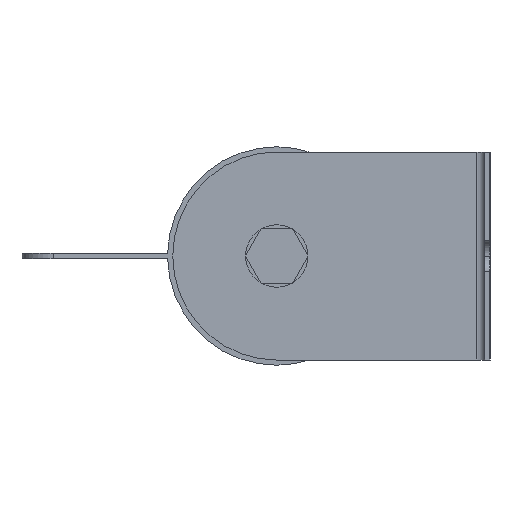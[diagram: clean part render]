
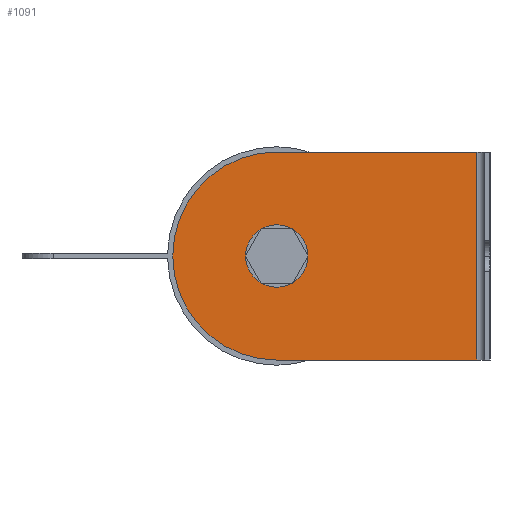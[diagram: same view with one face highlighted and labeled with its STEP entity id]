
A CAD part, left-side view. The second image highlights one B-rep face of the part: STEP entity #1091.
In plain terms, the highlighted planar face has unit normal (-1, 0, 0).
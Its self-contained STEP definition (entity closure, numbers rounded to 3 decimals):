
#161 = ORIENTED_EDGE ( 'NONE', *, *, #422, .F. ) ;
#252 = CARTESIAN_POINT ( 'NONE',  ( -193.5, 0., -20. ) ) ;
#255 = AXIS2_PLACEMENT_3D ( 'NONE', #1330, #1770, #2215 ) ;
#267 = DIRECTION ( 'NONE',  ( -1., 0., 0. ) ) ;
#279 = CARTESIAN_POINT ( 'NONE',  ( -193.5, -38.5, -20. ) ) ;
#308 = EDGE_CURVE ( 'NONE', #2081, #2088, #1448, .T. ) ;
#324 = LINE ( 'NONE', #2357, #2463 ) ;
#422 = EDGE_CURVE ( 'NONE', #1720, #2294, #1834, .T. ) ;
#478 = PLANE ( 'NONE',  #255 ) ;
#479 = CARTESIAN_POINT ( 'NONE',  ( -193.5, 0., 0. ) ) ;
#542 = DIRECTION ( 'NONE',  ( 0., 1., 0. ) ) ;
#549 = AXIS2_PLACEMENT_3D ( 'NONE', #880, #896, #1721 ) ;
#589 = FACE_OUTER_BOUND ( 'NONE', #1109, .T. ) ;
#637 = DIRECTION ( 'NONE',  ( -1., 0., 0. ) ) ;
#678 = CARTESIAN_POINT ( 'NONE',  ( -193.5, 0., 20. ) ) ;
#766 = ORIENTED_EDGE ( 'NONE', *, *, #1143, .T. ) ;
#880 = CARTESIAN_POINT ( 'NONE',  ( -193.5, 0., 0. ) ) ;
#896 = DIRECTION ( 'NONE',  ( -1., 0., 0. ) ) ;
#954 = CARTESIAN_POINT ( 'NONE',  ( -193.5, 0., -6. ) ) ;
#1018 = AXIS2_PLACEMENT_3D ( 'NONE', #1674, #637, #2554 ) ;
#1091 = ADVANCED_FACE ( 'NONE', ( #1731, #589 ), #478, .T. ) ;
#1109 = EDGE_LOOP ( 'NONE', ( #1467, #2233, #766, #1351 ) ) ;
#1127 = LINE ( 'NONE', #1341, #2579 ) ;
#1143 = EDGE_CURVE ( 'NONE', #1161, #2081, #1928, .T. ) ;
#1161 = VERTEX_POINT ( 'NONE', #1165 ) ;
#1165 = CARTESIAN_POINT ( 'NONE',  ( -193.5, -38.5, 20. ) ) ;
#1272 = CARTESIAN_POINT ( 'NONE',  ( -193.5, 0., 6. ) ) ;
#1305 = EDGE_LOOP ( 'NONE', ( #161, #1786 ) ) ;
#1330 = CARTESIAN_POINT ( 'NONE',  ( -193.5, 0., 0. ) ) ;
#1341 = CARTESIAN_POINT ( 'NONE',  ( -193.5, -38.5, 20. ) ) ;
#1351 = ORIENTED_EDGE ( 'NONE', *, *, #308, .T. ) ;
#1448 = CIRCLE ( 'NONE', #1018, 20. ) ;
#1467 = ORIENTED_EDGE ( 'NONE', *, *, #2526, .T. ) ;
#1589 = CARTESIAN_POINT ( 'NONE',  ( -193.5, 0., 20. ) ) ;
#1603 = VECTOR ( 'NONE', #542, 1000. ) ;
#1650 = AXIS2_PLACEMENT_3D ( 'NONE', #479, #267, #2406 ) ;
#1674 = CARTESIAN_POINT ( 'NONE',  ( -193.5, 0., 0. ) ) ;
#1720 = VERTEX_POINT ( 'NONE', #954 ) ;
#1721 = DIRECTION ( 'NONE',  ( 0., 0., 1. ) ) ;
#1731 = FACE_BOUND ( 'NONE', #1305, .T. ) ;
#1770 = DIRECTION ( 'NONE',  ( -1., 0., 0. ) ) ;
#1786 = ORIENTED_EDGE ( 'NONE', *, *, #2370, .F. ) ;
#1834 = CIRCLE ( 'NONE', #1650, 6. ) ;
#1928 = LINE ( 'NONE', #1589, #1603 ) ;
#2023 = DIRECTION ( 'NONE',  ( 0., 0., 1. ) ) ;
#2081 = VERTEX_POINT ( 'NONE', #678 ) ;
#2088 = VERTEX_POINT ( 'NONE', #252 ) ;
#2215 = DIRECTION ( 'NONE',  ( 0., 0., 1. ) ) ;
#2217 = EDGE_CURVE ( 'NONE', #2585, #1161, #1127, .T. ) ;
#2233 = ORIENTED_EDGE ( 'NONE', *, *, #2217, .T. ) ;
#2294 = VERTEX_POINT ( 'NONE', #1272 ) ;
#2347 = CIRCLE ( 'NONE', #549, 6. ) ;
#2357 = CARTESIAN_POINT ( 'NONE',  ( -193.5, 0., -20. ) ) ;
#2370 = EDGE_CURVE ( 'NONE', #2294, #1720, #2347, .T. ) ;
#2406 = DIRECTION ( 'NONE',  ( 0., 0., 1. ) ) ;
#2463 = VECTOR ( 'NONE', #2628, 1000. ) ;
#2526 = EDGE_CURVE ( 'NONE', #2088, #2585, #324, .T. ) ;
#2554 = DIRECTION ( 'NONE',  ( 0., 0., 1. ) ) ;
#2579 = VECTOR ( 'NONE', #2023, 1000. ) ;
#2585 = VERTEX_POINT ( 'NONE', #279 ) ;
#2628 = DIRECTION ( 'NONE',  ( 0., -1., 0. ) ) ;
